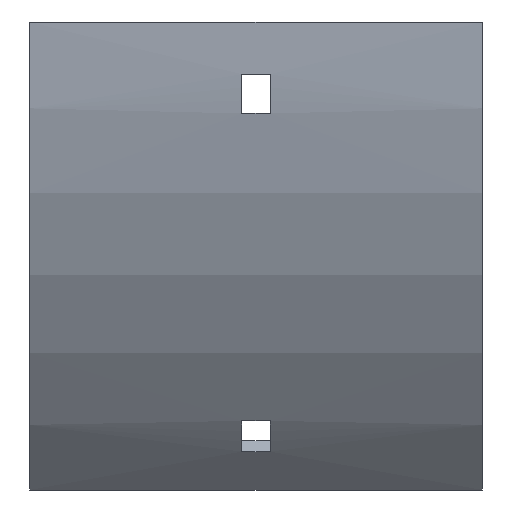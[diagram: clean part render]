
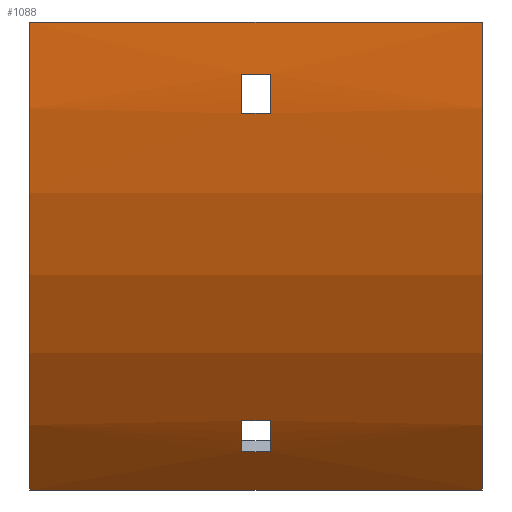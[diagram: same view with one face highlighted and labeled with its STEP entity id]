
A CAD part, front view. The second image highlights one B-rep face of the part: STEP entity #1088.
In plain terms, the highlighted cylindrical face has radius 152 mm (diameter 304 mm), a partial arc.
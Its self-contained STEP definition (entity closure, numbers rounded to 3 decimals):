
#15 = VERTEX_POINT ( 'NONE', #1038 ) ;
#20 = CARTESIAN_POINT ( 'NONE',  ( -52., -7.48, -107.48 ) ) ;
#24 = DIRECTION ( 'NONE',  ( 0., 0., 1. ) ) ;
#41 = DIRECTION ( 'NONE',  ( 1., 0., 0. ) ) ;
#43 = CARTESIAN_POINT ( 'NONE',  ( 52., -7.48, -107.48 ) ) ;
#48 = VERTEX_POINT ( 'NONE', #423 ) ;
#59 = EDGE_LOOP ( 'NONE', ( #322, #721, #686, #348 ) ) ;
#63 = CIRCLE ( 'NONE', #855, 152. ) ;
#64 = DIRECTION ( 'NONE',  ( -1., 0., 0. ) ) ;
#65 = DIRECTION ( 'NONE',  ( 1., 0., 0. ) ) ;
#73 = CARTESIAN_POINT ( 'NONE',  ( -3.25, 100., 0. ) ) ;
#86 = DIRECTION ( 'NONE',  ( 0., 0., 1. ) ) ;
#87 = CIRCLE ( 'NONE', #538, 152. ) ;
#94 = VERTEX_POINT ( 'NONE', #791 ) ;
#112 = ORIENTED_EDGE ( 'NONE', *, *, #725, .T. ) ;
#119 = EDGE_CURVE ( 'NONE', #94, #346, #1112, .T. ) ;
#146 = LINE ( 'NONE', #1124, #446 ) ;
#151 = CIRCLE ( 'NONE', #342, 152. ) ;
#165 = EDGE_CURVE ( 'NONE', #15, #579, #840, .T. ) ;
#166 = CARTESIAN_POINT ( 'NONE',  ( -3.25, -21.299, -91.6 ) ) ;
#190 = ORIENTED_EDGE ( 'NONE', *, *, #634, .T. ) ;
#207 = VERTEX_POINT ( 'NONE', #1095 ) ;
#226 = VERTEX_POINT ( 'NONE', #1055 ) ;
#233 = CARTESIAN_POINT ( 'NONE',  ( -3.25, -50.542, -21. ) ) ;
#240 = AXIS2_PLACEMENT_3D ( 'NONE', #537, #618, #888 ) ;
#258 = CARTESIAN_POINT ( 'NONE',  ( -3.25, -15.63, -98.659 ) ) ;
#296 = CARTESIAN_POINT ( 'NONE',  ( -3.25, 100., 0. ) ) ;
#302 = LINE ( 'NONE', #824, #871 ) ;
#303 = DIRECTION ( 'NONE',  ( -1., 0., 0. ) ) ;
#310 = FACE_BOUND ( 'NONE', #606, .T. ) ;
#311 = DIRECTION ( 'NONE',  ( -1., 0., 0. ) ) ;
#320 = CARTESIAN_POINT ( 'NONE',  ( 52., 100., 0. ) ) ;
#322 = ORIENTED_EDGE ( 'NONE', *, *, #549, .F. ) ;
#327 = DIRECTION ( 'NONE',  ( 0., 0., -1. ) ) ;
#342 = AXIS2_PLACEMENT_3D ( 'NONE', #296, #1008, #24 ) ;
#345 = VERTEX_POINT ( 'NONE', #258 ) ;
#346 = VERTEX_POINT ( 'NONE', #20 ) ;
#348 = ORIENTED_EDGE ( 'NONE', *, *, #844, .F. ) ;
#356 = EDGE_CURVE ( 'NONE', #48, #94, #63, .T. ) ;
#370 = CARTESIAN_POINT ( 'NONE',  ( 52., 100., 0. ) ) ;
#374 = CARTESIAN_POINT ( 'NONE',  ( 3.25, -50.542, -21. ) ) ;
#402 = FACE_BOUND ( 'NONE', #59, .T. ) ;
#423 = CARTESIAN_POINT ( 'NONE',  ( 52., -52., 0. ) ) ;
#424 = LINE ( 'NONE', #1129, #1108 ) ;
#432 = DIRECTION ( 'NONE',  ( 1., 0., 0. ) ) ;
#446 = VECTOR ( 'NONE', #432, 1000. ) ;
#452 = DIRECTION ( 'NONE',  ( 0., 0., -1. ) ) ;
#461 = CIRCLE ( 'NONE', #850, 152. ) ;
#487 = ORIENTED_EDGE ( 'NONE', *, *, #356, .F. ) ;
#491 = FACE_OUTER_BOUND ( 'NONE', #901, .T. ) ;
#522 = EDGE_CURVE ( 'NONE', #865, #555, #146, .T. ) ;
#537 = CARTESIAN_POINT ( 'NONE',  ( -52., 100., 0. ) ) ;
#538 = AXIS2_PLACEMENT_3D ( 'NONE', #801, #542, #86 ) ;
#542 = DIRECTION ( 'NONE',  ( -1., 0., 0. ) ) ;
#547 = EDGE_CURVE ( 'NONE', #48, #207, #424, .T. ) ;
#549 = EDGE_CURVE ( 'NONE', #579, #345, #834, .T. ) ;
#555 = VERTEX_POINT ( 'NONE', #781 ) ;
#579 = VERTEX_POINT ( 'NONE', #166 ) ;
#600 = VERTEX_POINT ( 'NONE', #233 ) ;
#601 = ORIENTED_EDGE ( 'NONE', *, *, #119, .F. ) ;
#602 = DIRECTION ( 'NONE',  ( -1., 0., 0. ) ) ;
#606 = EDGE_LOOP ( 'NONE', ( #1091, #1084, #1146, #190 ) ) ;
#618 = DIRECTION ( 'NONE',  ( 1., 0., 0. ) ) ;
#634 = EDGE_CURVE ( 'NONE', #555, #860, #461, .T. ) ;
#660 = DIRECTION ( 'NONE',  ( -1., 0., 0. ) ) ;
#680 = DIRECTION ( 'NONE',  ( 0., 0., -1. ) ) ;
#684 = CYLINDRICAL_SURFACE ( 'NONE', #848, 152. ) ;
#686 = ORIENTED_EDGE ( 'NONE', *, *, #702, .F. ) ;
#700 = ORIENTED_EDGE ( 'NONE', *, *, #547, .T. ) ;
#702 = EDGE_CURVE ( 'NONE', #226, #15, #87, .T. ) ;
#721 = ORIENTED_EDGE ( 'NONE', *, *, #165, .F. ) ;
#725 = EDGE_CURVE ( 'NONE', #207, #346, #741, .T. ) ;
#739 = VECTOR ( 'NONE', #311, 1000. ) ;
#741 = CIRCLE ( 'NONE', #240, 152. ) ;
#779 = DIRECTION ( 'NONE',  ( 1., 0., 0. ) ) ;
#781 = CARTESIAN_POINT ( 'NONE',  ( 3.25, -51.526, -12. ) ) ;
#791 = CARTESIAN_POINT ( 'NONE',  ( 52., -7.48, -107.48 ) ) ;
#801 = CARTESIAN_POINT ( 'NONE',  ( 3.25, 100., 0. ) ) ;
#803 = EDGE_CURVE ( 'NONE', #860, #600, #812, .T. ) ;
#812 = LINE ( 'NONE', #995, #828 ) ;
#824 = CARTESIAN_POINT ( 'NONE',  ( 52., -15.63, -98.659 ) ) ;
#826 = EDGE_CURVE ( 'NONE', #600, #865, #151, .T. ) ;
#828 = VECTOR ( 'NONE', #660, 1000. ) ;
#834 = CIRCLE ( 'NONE', #857, 152. ) ;
#840 = LINE ( 'NONE', #1102, #884 ) ;
#844 = EDGE_CURVE ( 'NONE', #345, #226, #302, .T. ) ;
#848 = AXIS2_PLACEMENT_3D ( 'NONE', #320, #64, #1111 ) ;
#850 = AXIS2_PLACEMENT_3D ( 'NONE', #1122, #779, #680 ) ;
#855 = AXIS2_PLACEMENT_3D ( 'NONE', #370, #876, #452 ) ;
#857 = AXIS2_PLACEMENT_3D ( 'NONE', #73, #65, #327 ) ;
#860 = VERTEX_POINT ( 'NONE', #374 ) ;
#865 = VERTEX_POINT ( 'NONE', #1089 ) ;
#871 = VECTOR ( 'NONE', #41, 1000. ) ;
#876 = DIRECTION ( 'NONE',  ( 1., 0., 0. ) ) ;
#884 = VECTOR ( 'NONE', #303, 1000. ) ;
#888 = DIRECTION ( 'NONE',  ( 0., 0., -1. ) ) ;
#901 = EDGE_LOOP ( 'NONE', ( #112, #601, #487, #700 ) ) ;
#995 = CARTESIAN_POINT ( 'NONE',  ( 52., -50.542, -21. ) ) ;
#1008 = DIRECTION ( 'NONE',  ( -1., 0., 0. ) ) ;
#1038 = CARTESIAN_POINT ( 'NONE',  ( 3.25, -21.299, -91.6 ) ) ;
#1055 = CARTESIAN_POINT ( 'NONE',  ( 3.25, -15.63, -98.659 ) ) ;
#1084 = ORIENTED_EDGE ( 'NONE', *, *, #826, .T. ) ;
#1088 = ADVANCED_FACE ( 'NONE', ( #491, #310, #402 ), #684, .T. ) ;
#1089 = CARTESIAN_POINT ( 'NONE',  ( -3.25, -51.526, -12. ) ) ;
#1091 = ORIENTED_EDGE ( 'NONE', *, *, #803, .T. ) ;
#1095 = CARTESIAN_POINT ( 'NONE',  ( -52., -52., 0. ) ) ;
#1102 = CARTESIAN_POINT ( 'NONE',  ( 52., -21.299, -91.6 ) ) ;
#1108 = VECTOR ( 'NONE', #602, 1000. ) ;
#1111 = DIRECTION ( 'NONE',  ( 0., 0., 1. ) ) ;
#1112 = LINE ( 'NONE', #43, #739 ) ;
#1122 = CARTESIAN_POINT ( 'NONE',  ( 3.25, 100., 0. ) ) ;
#1124 = CARTESIAN_POINT ( 'NONE',  ( 52., -51.526, -12. ) ) ;
#1129 = CARTESIAN_POINT ( 'NONE',  ( 52., -52., 0. ) ) ;
#1146 = ORIENTED_EDGE ( 'NONE', *, *, #522, .T. ) ;
